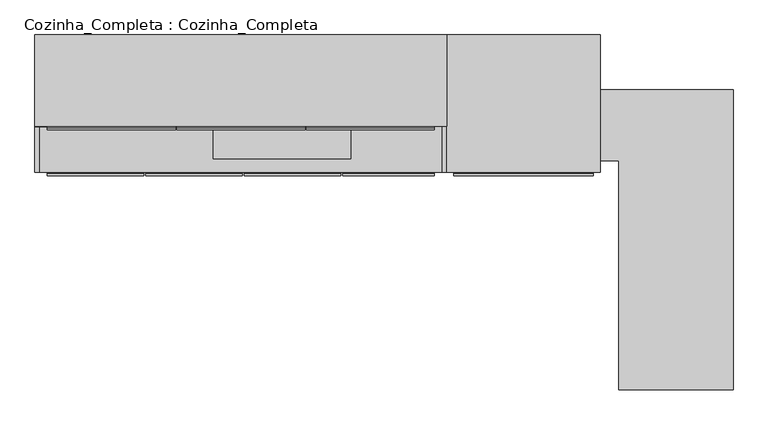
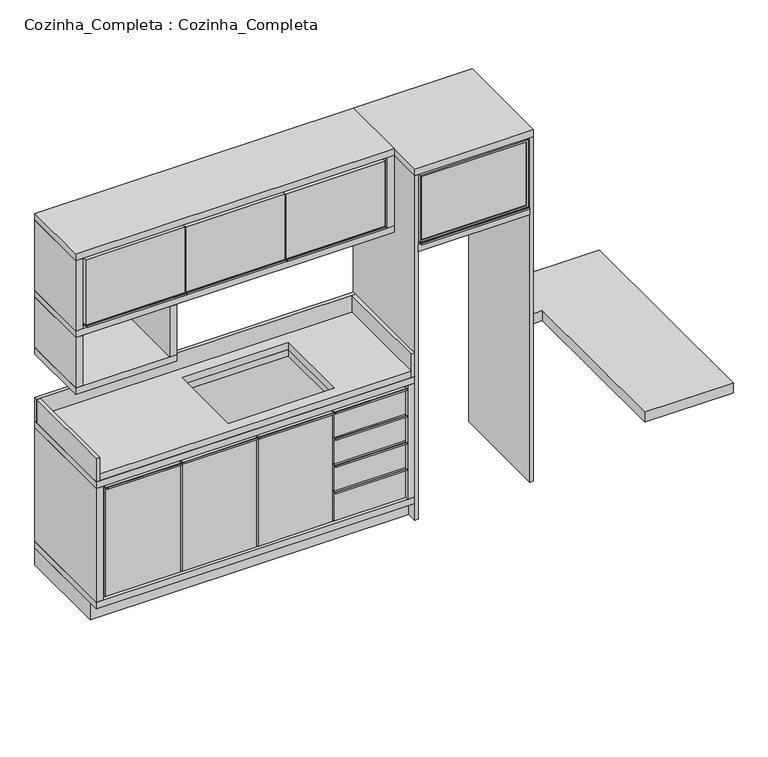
"""IFC4 building model written with IfcOpenShell, lengths in millimetres: furniture geometry, Cozinha_Completa : Cozinha_Completa."""

from ifc_helpers import new_model, si_unit, point, frame, frame_2d, origin, origin_with_axes, place, context, project, spatial, polyline, circle_curve, trimmed, segment, composite_curve, outline, extrude, source, transform, mapped, element, save


def cozinha_completa_cozinha_completa_c358d093(model_context):
    return source(origin(), model_context, "Body", "SweptSolid", [
        extrude(outline(polyline([(530.0, 600.0), (570.0, 600.0), (570.0, 200.0), (530.0, 200.0), (530.0, 600.0)])), frame((0.0, 0.0, 1300.0), z_axis=(0.0, 0.0, 1.0), x_axis=(1.0, 0.0, 0.0)), (0.0, 0.0, 1.0), 300.0),
        extrude(outline(polyline([(40.0, 600.0), (40.0, 200.0), (0.0, 200.0), (0.0, 600.0), (40.0, 600.0)])), frame((0.0, 0.0, 1300.0), z_axis=(0.0, 0.0, 1.0), x_axis=(1.0, 0.0, 0.0)), (0.0, 0.0, 1.0), 300.0),
        extrude(outline(polyline([(570.0, 200.0), (0.0, 200.0), (0.0, 600.0), (570.0, 600.0), (570.0, 200.0)])), frame((0.0, 0.0, 1260.0), z_axis=(0.0, 0.0, 1.0), x_axis=(1.0, 0.0, 0.0)), (0.0, 0.0, 1.0), 40.0),
        extrude(outline(composite_curve([segment(polyline([(220.0, 1650.0), (185.0, 1650.0), (185.0, 1660.0)]), True, "CONTINUOUS"), segment(trimmed(circle_curve(frame_2d((195.0, 1667.5)), 12.5), [point((185.0, 1660.0))], [point((195.0, 1655.0))], True, "CARTESIAN"), True, "CONTINUOUS"), segment(polyline([(195.0, 1655.0), (220.0, 1655.0), (220.0, 1650.0)]), True, "CONTINUOUS")], self_intersect=False)), frame((1185.0, 0.0, 0.0), z_axis=(1.0, 0.0, 0.0), x_axis=(0.0, 1.0, 0.0)), (0.0, 0.0, 1.0), 560.0),
        extrude(outline(composite_curve([segment(polyline([(220.0, 1650.0), (185.0, 1650.0), (185.0, 1660.0)]), True, "CONTINUOUS"), segment(trimmed(circle_curve(frame_2d((195.0, 1667.5)), 12.5), [point((185.0, 1660.0))], [point((195.0, 1655.0))], True, "CARTESIAN"), True, "CONTINUOUS"), segment(polyline([(195.0, 1655.0), (220.0, 1655.0), (220.0, 1650.0)]), True, "CONTINUOUS")], self_intersect=False)), frame((620.0, 0.0, 0.0), z_axis=(1.0, 0.0, 0.0), x_axis=(0.0, 1.0, 0.0)), (0.0, 0.0, 1.0), 560.0),
        extrude(outline(composite_curve([segment(polyline([(220.0, 1650.0), (185.0, 1650.0), (185.0, 1660.0)]), True, "CONTINUOUS"), segment(trimmed(circle_curve(frame_2d((195.0, 1667.5)), 12.5), [point((185.0, 1660.0))], [point((195.0, 1655.0))], True, "CARTESIAN"), True, "CONTINUOUS"), segment(polyline([(195.0, 1655.0), (220.0, 1655.0), (220.0, 1650.0)]), True, "CONTINUOUS")], self_intersect=False)), frame((55.0, 0.0, 0.0), z_axis=(1.0, 0.0, 0.0), x_axis=(0.0, 1.0, 0.0)), (0.0, 0.0, 1.0), 560.0),
        extrude(outline(polyline([(1800.0, 600.0), (1800.0, 200.0), (0.0, 200.0), (0.0, 600.0), (1800.0, 600.0)])), frame((0.0, 0.0, 2060.0), z_axis=(0.0, 0.0, 1.0), x_axis=(1.0, 0.0, 0.0)), (0.0, 0.0, 1.0), 40.0),
        extrude(outline(polyline([(1180.0, 200.0), (620.0, 200.0), (620.0, 220.0), (1180.0, 220.0), (1180.0, 200.0)])), frame((0.0, 0.0, 1655.0), z_axis=(0.0, 0.0, 1.0), x_axis=(1.0, 0.0, 0.0)), (0.0, 0.0, 1.0), 390.0),
        extrude(outline(polyline([(1745.0, 200.0), (1185.0, 200.0), (1185.0, 220.0), (1745.0, 220.0), (1745.0, 200.0)])), frame((0.0, 0.0, 1655.0), z_axis=(0.0, 0.0, 1.0), x_axis=(1.0, 0.0, 0.0)), (0.0, 0.0, 1.0), 390.0),
        extrude(outline(polyline([(615.0, 200.0), (55.0, 200.0), (55.0, 220.0), (615.0, 220.0), (615.0, 200.0)])), frame((0.0, 0.0, 1655.0), z_axis=(0.0, 0.0, 1.0), x_axis=(1.0, 0.0, 0.0)), (0.0, 0.0, 1.0), 390.0),
        extrude(outline(polyline([(2060.0, 1760.0), (2060.0, 40.0), (1640.0, 40.0), (1640.0, 1760.0), (2060.0, 1760.0)]), holes=[polyline([(2045.0, 610.0), (1655.0, 610.0), (1655.0, 55.0), (2045.0, 55.0), (2045.0, 610.0)]), polyline([(1655.0, 1190.0), (2045.0, 1190.0), (2045.0, 1745.0), (1655.0, 1745.0), (1655.0, 1190.0)]), polyline([(2045.0, 1175.0), (1655.0, 1175.0), (1655.0, 625.0), (2045.0, 625.0), (2045.0, 1175.0)])]), frame((0.0, 220.0, 0.0), z_axis=(0.0, 1.0, 0.0), x_axis=(0.0, 0.0, 1.0)), (0.0, 0.0, 1.0), 10.0),
        extrude(outline(polyline([(40.0, 600.0), (1760.0, 600.0), (1760.0, 560.0), (40.0, 560.0), (40.0, 600.0)])), frame((0.0, 0.0, 1640.0), z_axis=(0.0, 0.0, 1.0), x_axis=(1.0, 0.0, 0.0)), (0.0, 0.0, 1.0), 420.0),
        extrude(outline(polyline([(1760.0, 600.0), (1800.0, 600.0), (1800.0, 200.0), (1760.0, 200.0), (1760.0, 600.0)])), frame((0.0, 0.0, 1640.0), z_axis=(0.0, 0.0, 1.0), x_axis=(1.0, 0.0, 0.0)), (0.0, 0.0, 1.0), 420.0),
        extrude(outline(polyline([(40.0, 600.0), (40.0, 200.0), (0.0, 200.0), (0.0, 600.0), (40.0, 600.0)])), frame((0.0, 0.0, 1640.0), z_axis=(0.0, 0.0, 1.0), x_axis=(1.0, 0.0, 0.0)), (0.0, 0.0, 1.0), 420.0),
        extrude(outline(polyline([(1800.0, 200.0), (0.0, 200.0), (0.0, 600.0), (1800.0, 600.0), (1800.0, 200.0)])), frame((0.0, 0.0, 1600.0), z_axis=(0.0, 0.0, 1.0), x_axis=(1.0, 0.0, 0.0)), (0.0, 0.0, 1.0), 40.0),
        extrude(outline(polyline([(3050.0, 360.0), (3050.0, -950.0), (2550.0, -950.0), (2550.0, 50.0), (2470.0, 50.0), (2470.0, 360.0), (3050.0, 360.0)])), frame((0.0, 0.0, 900.0), z_axis=(0.0, 0.0, 1.0), x_axis=(1.0, 0.0, 0.0)), (0.0, 0.0, 1.0), 60.0),
        extrude(outline(composite_curve([segment(polyline([(20.0, 1645.0), (-15.0, 1645.0), (-15.0, 1655.0)]), True, "CONTINUOUS"), segment(trimmed(circle_curve(frame_2d((-5.0, 1662.5)), 12.5), [point((-15.0, 1655.0))], [point((-5.0, 1650.0))], True, "CARTESIAN"), True, "CONTINUOUS"), segment(polyline([(-5.0, 1650.0), (20.0, 1650.0), (20.0, 1645.0)]), True, "CONTINUOUS")], self_intersect=False)), frame((1830.0, 0.0, 0.0), z_axis=(1.0, 0.0, 0.0), x_axis=(0.0, 1.0, 0.0)), (0.0, 0.0, 1.0), 610.0),
        extrude(outline(polyline([(2470.0, 600.0), (2470.0, 0.0), (1800.0, 0.0), (1800.0, 600.0), (2470.0, 600.0)])), frame((0.0, 0.0, 2060.0), z_axis=(0.0, 0.0, 1.0), x_axis=(1.0, 0.0, 0.0)), (0.0, 0.0, 1.0), 40.0),
        extrude(outline(polyline([(1820.0, 580.0), (1820.0, 600.0), (2450.0, 600.0), (2450.0, 580.0), (1820.0, 580.0)])), frame((0.0, 0.0, 1640.0), z_axis=(0.0, 0.0, 1.0), x_axis=(1.0, 0.0, 0.0)), (0.0, 0.0, 1.0), 420.0),
        extrude(outline(polyline([(1840.0, 15.0), (2430.0, 15.0), (2430.0, 5.0), (1840.0, 5.0), (1840.0, 15.0)])), frame((0.0, 0.0, 1660.0), z_axis=(0.0, 0.0, 1.0), x_axis=(1.0, 0.0, 0.0)), (0.0, 0.0, 1.0), 380.0),
        extrude(outline(polyline([(2050.0, 2440.0), (2050.0, 1830.0), (1650.0, 1830.0), (1650.0, 2440.0), (2050.0, 2440.0)]), holes=[polyline([(2040.0, 2430.0), (1660.0, 2430.0), (1660.0, 1840.0), (2040.0, 1840.0), (2040.0, 2430.0)])]), frame((0.0, 0.0, 0.0), z_axis=(0.0, 1.0, 0.0), x_axis=(0.0, 0.0, 1.0)), (0.0, 0.0, 1.0), 20.0),
        extrude(outline(polyline([(2060.0, 2450.0), (2060.0, 1820.0), (1640.0, 1820.0), (1640.0, 2450.0), (2060.0, 2450.0)]), holes=[polyline([(2045.0, 1835.0), (2045.0, 2435.0), (1655.0, 2435.0), (1655.0, 1835.0), (2045.0, 1835.0)])]), frame((0.0, 20.0, 0.0), z_axis=(0.0, 1.0, 0.0), x_axis=(0.0, 0.0, 1.0)), (0.0, 0.0, 1.0), 10.0),
        extrude(outline(polyline([(2450.0, 600.0), (2450.0, 0.0), (1820.0, 0.0), (1820.0, 600.0), (2450.0, 600.0)])), frame((0.0, 0.0, 1600.0), z_axis=(0.0, 0.0, 1.0), x_axis=(1.0, 0.0, 0.0)), (0.0, 0.0, 1.0), 40.0),
        extrude(outline(polyline([(2470.0, 0.0), (2450.0, 0.0), (2450.0, 600.0), (2470.0, 600.0), (2470.0, 0.0)])), origin_with_axes(), (0.0, 0.0, 1.0), 2060.0),
        extrude(outline(polyline([(1820.0, 0.0), (1800.0, 0.0), (1800.0, 600.0), (1820.0, 600.0), (1820.0, 0.0)])), origin_with_axes(), (0.0, 0.0, 1.0), 2060.0),
        extrude(outline(polyline([(0.0, 580.0), (0.0, 600.0), (1800.0, 600.0), (1800.0, 580.0), (0.0, 580.0)])), frame((0.0, 0.0, 860.0), z_axis=(0.0, 0.0, 1.0), x_axis=(1.0, 0.0, 0.0)), (0.0, 0.0, 1.0), 140.0),
        extrude(outline(polyline([(1800.0, 580.0), (1800.0, 0.0), (1780.0, 0.0), (1780.0, 580.0), (1800.0, 580.0)])), frame((0.0, 0.0, 860.0), z_axis=(0.0, 0.0, 1.0), x_axis=(1.0, 0.0, 0.0)), (0.0, 0.0, 1.0), 140.0),
        extrude(outline(polyline([(0.0, 580.0), (20.0, 580.0), (20.0, 0.0), (0.0, 0.0), (0.0, 580.0)])), frame((0.0, 0.0, 860.0), z_axis=(0.0, 0.0, 1.0), x_axis=(1.0, 0.0, 0.0)), (0.0, 0.0, 1.0), 140.0),
        extrude(outline(polyline([(1780.0, 580.0), (1780.0, 0.0), (20.0, 0.0), (20.0, 580.0), (1780.0, 580.0)]), holes=[polyline([(1380.0, 60.0), (1380.0, 510.0), (780.0, 510.0), (780.0, 60.0), (1380.0, 60.0)])]), frame((0.0, 0.0, 860.0), z_axis=(0.0, 0.0, 1.0), x_axis=(1.0, 0.0, 0.0)), (0.0, 0.0, 1.0), 40.0),
        extrude(outline(composite_curve([segment(polyline([(-15.0, 325.0), (-15.0, 335.0)]), True, "CONTINUOUS"), segment(trimmed(circle_curve(frame_2d((-5.0, 342.5)), 12.5), [point((-15.0, 335.0))], [point((-5.0, 330.0))], True, "CARTESIAN"), True, "CONTINUOUS"), segment(polyline([(-5.0, 330.0), (20.0, 330.0), (20.0, 325.0), (-15.0, 325.0)]), True, "CONTINUOUS")], self_intersect=False)), frame((1345.0, 0.0, 0.0), z_axis=(1.0, 0.0, 0.0), x_axis=(0.0, 1.0, 0.0)), (0.0, 0.0, 1.0), 400.0),
        extrude(outline(composite_curve([segment(polyline([(-15.0, 485.0), (-15.0, 495.0)]), True, "CONTINUOUS"), segment(trimmed(circle_curve(frame_2d((-5.0, 502.5)), 12.5), [point((-15.0, 495.0))], [point((-5.0, 490.0))], True, "CARTESIAN"), True, "CONTINUOUS"), segment(polyline([(-5.0, 490.0), (20.0, 490.0), (20.0, 485.0), (-15.0, 485.0)]), True, "CONTINUOUS")], self_intersect=False)), frame((1345.0, 0.0, 0.0), z_axis=(1.0, 0.0, 0.0), x_axis=(0.0, 1.0, 0.0)), (0.0, 0.0, 1.0), 400.0),
        extrude(outline(composite_curve([segment(polyline([(-15.0, 645.0), (-15.0, 655.0)]), True, "CONTINUOUS"), segment(trimmed(circle_curve(frame_2d((-5.0, 662.5)), 12.5), [point((-15.0, 655.0))], [point((-5.0, 650.0))], True, "CARTESIAN"), True, "CONTINUOUS"), segment(polyline([(-5.0, 650.0), (20.0, 650.0), (20.0, 645.0), (-15.0, 645.0)]), True, "CONTINUOUS")], self_intersect=False)), frame((1345.0, 0.0, 0.0), z_axis=(1.0, 0.0, 0.0), x_axis=(0.0, 1.0, 0.0)), (0.0, 0.0, 1.0), 400.0),
        extrude(outline(composite_curve([segment(polyline([(-15.0, 805.0), (-15.0, 815.0)]), True, "CONTINUOUS"), segment(trimmed(circle_curve(frame_2d((-5.0, 822.5)), 12.5), [point((-15.0, 815.0))], [point((-5.0, 810.0))], True, "CARTESIAN"), True, "CONTINUOUS"), segment(polyline([(-5.0, 810.0), (20.0, 810.0), (20.0, 805.0), (-15.0, 805.0)]), True, "CONTINUOUS")], self_intersect=False)), frame((1345.0, 0.0, 0.0), z_axis=(1.0, 0.0, 0.0), x_axis=(0.0, 1.0, 0.0)), (0.0, 0.0, 1.0), 400.0),
        extrude(outline(composite_curve([segment(polyline([(-15.0, 805.0), (-15.0, 815.0)]), True, "CONTINUOUS"), segment(trimmed(circle_curve(frame_2d((-5.0, 822.5)), 12.5), [point((-15.0, 815.0))], [point((-5.0, 810.0))], True, "CARTESIAN"), True, "CONTINUOUS"), segment(polyline([(-5.0, 810.0), (20.0, 810.0), (20.0, 805.0), (-15.0, 805.0)]), True, "CONTINUOUS")], self_intersect=False)), frame((915.0, 0.0, 0.0), z_axis=(1.0, 0.0, 0.0), x_axis=(0.0, 1.0, 0.0)), (0.0, 0.0, 1.0), 420.0),
        extrude(outline(composite_curve([segment(polyline([(-15.0, 805.0), (-15.0, 815.0)]), True, "CONTINUOUS"), segment(trimmed(circle_curve(frame_2d((-5.0, 822.5)), 12.5), [point((-15.0, 815.0))], [point((-5.0, 810.0))], True, "CARTESIAN"), True, "CONTINUOUS"), segment(polyline([(-5.0, 810.0), (20.0, 810.0), (20.0, 805.0), (-15.0, 805.0)]), True, "CONTINUOUS")], self_intersect=False)), frame((485.0, 0.0, 0.0), z_axis=(1.0, 0.0, 0.0), x_axis=(0.0, 1.0, 0.0)), (0.0, 0.0, 1.0), 420.0),
        extrude(outline(composite_curve([segment(polyline([(-15.0, 805.0), (-15.0, 815.0)]), True, "CONTINUOUS"), segment(trimmed(circle_curve(frame_2d((-5.0, 822.5)), 12.5), [point((-15.0, 815.0))], [point((-5.0, 810.0))], True, "CARTESIAN"), True, "CONTINUOUS"), segment(polyline([(-5.0, 810.0), (20.0, 810.0), (20.0, 805.0), (-15.0, 805.0)]), True, "CONTINUOUS")], self_intersect=False)), frame((55.0, 0.0, 0.0), z_axis=(1.0, 0.0, 0.0), x_axis=(0.0, 1.0, 0.0)), (0.0, 0.0, 1.0), 420.0),
        extrude(outline(polyline([(1800.0, 600.0), (1800.0, 0.0), (0.0, 0.0), (0.0, 600.0), (1800.0, 600.0)]), holes=[polyline([(780.0, 510.0), (780.0, 60.0), (1380.0, 60.0), (1380.0, 510.0), (780.0, 510.0)])]), frame((0.0, 0.0, 820.0), z_axis=(0.0, 0.0, 1.0), x_axis=(1.0, 0.0, 0.0)), (0.0, 0.0, 1.0), 40.0),
        extrude(outline(polyline([(1745.0, 0.0), (1345.0, 0.0), (1345.0, 20.0), (1745.0, 20.0), (1745.0, 0.0)])), frame((0.0, 0.0, 155.0), z_axis=(0.0, 0.0, 1.0), x_axis=(1.0, 0.0, 0.0)), (0.0, 0.0, 1.0), 170.0),
        extrude(outline(polyline([(1745.0, 0.0), (1345.0, 0.0), (1345.0, 20.0), (1745.0, 20.0), (1745.0, 0.0)])), frame((0.0, 0.0, 335.0), z_axis=(0.0, 0.0, 1.0), x_axis=(1.0, 0.0, 0.0)), (0.0, 0.0, 1.0), 150.0),
        extrude(outline(polyline([(1745.0, 0.0), (1345.0, 0.0), (1345.0, 20.0), (1745.0, 20.0), (1745.0, 0.0)])), frame((0.0, 0.0, 495.0), z_axis=(0.0, 0.0, 1.0), x_axis=(1.0, 0.0, 0.0)), (0.0, 0.0, 1.0), 150.0),
        extrude(outline(polyline([(1745.0, 0.0), (1345.0, 0.0), (1345.0, 20.0), (1745.0, 20.0), (1745.0, 0.0)])), frame((0.0, 0.0, 655.0), z_axis=(0.0, 0.0, 1.0), x_axis=(1.0, 0.0, 0.0)), (0.0, 0.0, 1.0), 150.0),
        extrude(outline(polyline([(1335.0, 0.0), (915.0, 0.0), (915.0, 20.0), (1335.0, 20.0), (1335.0, 0.0)])), frame((0.0, 0.0, 155.0), z_axis=(0.0, 0.0, 1.0), x_axis=(1.0, 0.0, 0.0)), (0.0, 0.0, 1.0), 650.0),
        extrude(outline(polyline([(905.0, 0.0), (485.0, 0.0), (485.0, 20.0), (905.0, 20.0), (905.0, 0.0)])), frame((0.0, 0.0, 155.0), z_axis=(0.0, 0.0, 1.0), x_axis=(1.0, 0.0, 0.0)), (0.0, 0.0, 1.0), 650.0),
        extrude(outline(polyline([(475.0, 0.0), (55.0, 0.0), (55.0, 20.0), (475.0, 20.0), (475.0, 0.0)])), frame((0.0, 0.0, 155.0), z_axis=(0.0, 0.0, 1.0), x_axis=(1.0, 0.0, 0.0)), (0.0, 0.0, 1.0), 650.0),
        extrude(outline(polyline([(820.0, 1760.0), (820.0, 40.0), (140.0, 40.0), (140.0, 1760.0), (820.0, 1760.0)]), holes=[polyline([(800.0, 60.0), (800.0, 470.0), (160.0, 470.0), (160.0, 60.0), (800.0, 60.0)]), polyline([(160.0, 1350.0), (320.0, 1350.0), (320.0, 1740.0), (160.0, 1740.0), (160.0, 1350.0)]), polyline([(660.0, 1740.0), (660.0, 1350.0), (800.0, 1350.0), (800.0, 1740.0), (660.0, 1740.0)]), polyline([(800.0, 490.0), (800.0, 900.0), (160.0, 900.0), (160.0, 490.0), (800.0, 490.0)]), polyline([(800.0, 920.0), (800.0, 1330.0), (160.0, 1330.0), (160.0, 920.0), (800.0, 920.0)]), polyline([(640.0, 1740.0), (500.0, 1740.0), (500.0, 1350.0), (640.0, 1350.0), (640.0, 1740.0)]), polyline([(480.0, 1740.0), (340.0, 1740.0), (340.0, 1350.0), (480.0, 1350.0), (480.0, 1740.0)])]), frame((0.0, 20.0, 0.0), z_axis=(0.0, 1.0, 0.0), x_axis=(0.0, 0.0, 1.0)), (0.0, 0.0, 1.0), 10.0),
        extrude(outline(polyline([(40.0, 600.0), (1760.0, 600.0), (1760.0, 560.0), (40.0, 560.0), (40.0, 600.0)])), frame((0.0, 0.0, 140.0), z_axis=(0.0, 0.0, 1.0), x_axis=(1.0, 0.0, 0.0)), (0.0, 0.0, 1.0), 680.0),
        extrude(outline(polyline([(1760.0, 600.0), (1800.0, 600.0), (1800.0, 0.0), (1760.0, 0.0), (1760.0, 600.0)])), frame((0.0, 0.0, 140.0), z_axis=(0.0, 0.0, 1.0), x_axis=(1.0, 0.0, 0.0)), (0.0, 0.0, 1.0), 680.0),
        extrude(outline(polyline([(40.0, 600.0), (40.0, 0.0), (0.0, 0.0), (0.0, 600.0), (40.0, 600.0)])), frame((0.0, 0.0, 140.0), z_axis=(0.0, 0.0, 1.0), x_axis=(1.0, 0.0, 0.0)), (0.0, 0.0, 1.0), 680.0),
        extrude(outline(polyline([(0.0, 600.0), (1800.0, 600.0), (1800.0, 0.0), (0.0, 0.0), (0.0, 600.0)])), frame((0.0, 0.0, 100.0), z_axis=(0.0, 0.0, 1.0), x_axis=(1.0, 0.0, 0.0)), (0.0, 0.0, 1.0), 40.0),
        extrude(outline(polyline([(1800.0, 60.0), (0.0, 60.0), (0.0, 600.0), (1800.0, 600.0), (1800.0, 60.0)])), origin_with_axes(), (0.0, 0.0, 1.0), 100.0),
    ])


if __name__ == "__main__":
    model = new_model("IFC4")
    model_context = context("Model", 3, world=origin())
    ifc_project = project(units=[si_unit("LENGTHUNIT", "METRE", prefix="MILLI")], contexts=[model_context])
    site = spatial("IfcSite", under=ifc_project)
    building = spatial("IfcBuilding", under=site)
    placement = place(None, origin())
    cozinha_completa_cozinha_completa_shape = cozinha_completa_cozinha_completa_c358d093(model_context)
    element("IfcFurniture", 1, ObjectType="Cozinha_Completa : Cozinha_Completa", at=placement, inside=building, context=model_context, shape_type="MappedRepresentation", body=[
        mapped(cozinha_completa_cozinha_completa_shape, transform((0.0, 0.0, 0.0), x_axis=(1.0, 0.0, 0.0), y_axis=(0.0, 1.0, 0.0), z_axis=(0.0, 0.0, 1.0))),
    ])
    save(model, "model.ifc")
